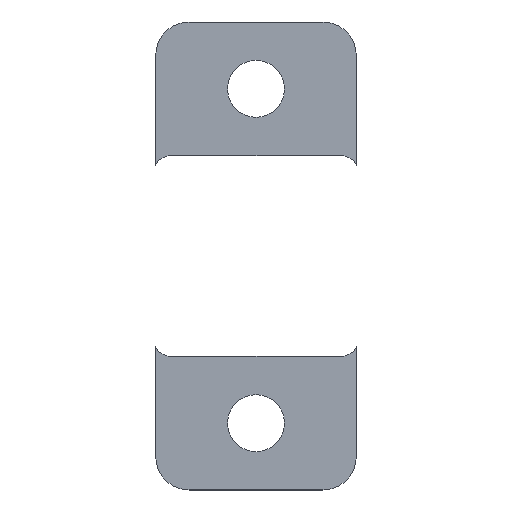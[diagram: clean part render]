
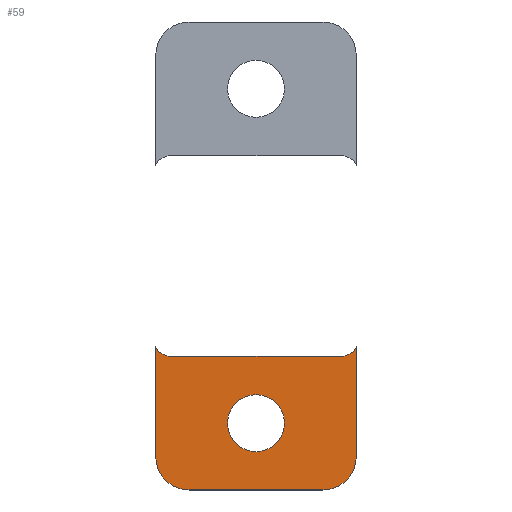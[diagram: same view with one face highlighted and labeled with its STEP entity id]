
A CAD part, top view. The second image highlights one B-rep face of the part: STEP entity #59.
In plain terms, the highlighted planar face has unit normal (0, 0, 1).
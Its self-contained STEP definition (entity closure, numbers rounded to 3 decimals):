
#21 = EDGE_CURVE('',#22,#24,#26,.T.);
#22 = VERTEX_POINT('',#23);
#23 = CARTESIAN_POINT('',(-18.,6.,0.4));
#24 = VERTEX_POINT('',#25);
#25 = CARTESIAN_POINT('',(-16.,4.,0.4));
#26 = CIRCLE('',#27,2.);
#27 = AXIS2_PLACEMENT_3D('',#28,#29,#30);
#28 = CARTESIAN_POINT('',(-16.,6.,0.4));
#29 = DIRECTION('',(0.,0.,1.));
#30 = DIRECTION('',(1.,0.,-0.));
#59 = ADVANCED_FACE('',(#60,#120),#131,.T.);
#60 = FACE_BOUND('',#61,.T.);
#61 = EDGE_LOOP('',(#62,#70,#71,#79,#88,#96,#105,#113));
#62 = ORIENTED_EDGE('',*,*,#63,.F.);
#63 = EDGE_CURVE('',#22,#64,#66,.T.);
#64 = VERTEX_POINT('',#65);
#65 = CARTESIAN_POINT('',(-18.,12.564,0.4));
#66 = LINE('',#67,#68);
#67 = CARTESIAN_POINT('',(-18.,6.,0.4));
#68 = VECTOR('',#69,1.);
#69 = DIRECTION('',(-0.,1.,0.));
#70 = ORIENTED_EDGE('',*,*,#21,.T.);
#71 = ORIENTED_EDGE('',*,*,#72,.T.);
#72 = EDGE_CURVE('',#24,#73,#75,.T.);
#73 = VERTEX_POINT('',#74);
#74 = CARTESIAN_POINT('',(-8.,4.,0.4));
#75 = LINE('',#76,#77);
#76 = CARTESIAN_POINT('',(-16.,4.,0.4));
#77 = VECTOR('',#78,1.);
#78 = DIRECTION('',(1.,0.,-0.));
#79 = ORIENTED_EDGE('',*,*,#80,.T.);
#80 = EDGE_CURVE('',#73,#81,#83,.T.);
#81 = VERTEX_POINT('',#82);
#82 = CARTESIAN_POINT('',(-6.,6.,0.4));
#83 = CIRCLE('',#84,2.);
#84 = AXIS2_PLACEMENT_3D('',#85,#86,#87);
#85 = CARTESIAN_POINT('',(-8.,6.,0.4));
#86 = DIRECTION('',(0.,0.,1.));
#87 = DIRECTION('',(1.,0.,-0.));
#88 = ORIENTED_EDGE('',*,*,#89,.T.);
#89 = EDGE_CURVE('',#81,#90,#92,.T.);
#90 = VERTEX_POINT('',#91);
#91 = CARTESIAN_POINT('',(-6.,12.564,0.4));
#92 = LINE('',#93,#94);
#93 = CARTESIAN_POINT('',(-6.,6.,0.4));
#94 = VECTOR('',#95,1.);
#95 = DIRECTION('',(-0.,1.,0.));
#96 = ORIENTED_EDGE('',*,*,#97,.F.);
#97 = EDGE_CURVE('',#98,#90,#100,.T.);
#98 = VERTEX_POINT('',#99);
#99 = CARTESIAN_POINT('',(-6.9,12.,0.4));
#100 = CIRCLE('',#101,1.);
#101 = AXIS2_PLACEMENT_3D('',#102,#103,#104);
#102 = CARTESIAN_POINT('',(-6.9,13.,0.4));
#103 = DIRECTION('',(0.,0.,1.));
#104 = DIRECTION('',(1.,0.,-0.));
#105 = ORIENTED_EDGE('',*,*,#106,.T.);
#106 = EDGE_CURVE('',#98,#107,#109,.T.);
#107 = VERTEX_POINT('',#108);
#108 = CARTESIAN_POINT('',(-17.1,12.,0.4));
#109 = LINE('',#110,#111);
#110 = CARTESIAN_POINT('',(-14.55,12.,0.4));
#111 = VECTOR('',#112,1.);
#112 = DIRECTION('',(-1.,-0.,0.));
#113 = ORIENTED_EDGE('',*,*,#114,.F.);
#114 = EDGE_CURVE('',#64,#107,#115,.T.);
#115 = CIRCLE('',#116,1.);
#116 = AXIS2_PLACEMENT_3D('',#117,#118,#119);
#117 = CARTESIAN_POINT('',(-17.1,13.,0.4));
#118 = DIRECTION('',(0.,0.,1.));
#119 = DIRECTION('',(1.,0.,-0.));
#120 = FACE_BOUND('',#121,.T.);
#121 = EDGE_LOOP('',(#122));
#122 = ORIENTED_EDGE('',*,*,#123,.F.);
#123 = EDGE_CURVE('',#124,#124,#126,.T.);
#124 = VERTEX_POINT('',#125);
#125 = CARTESIAN_POINT('',(-10.3,8.,0.4));
#126 = CIRCLE('',#127,1.7);
#127 = AXIS2_PLACEMENT_3D('',#128,#129,#130);
#128 = CARTESIAN_POINT('',(-12.,8.,0.4));
#129 = DIRECTION('',(0.,0.,1.));
#130 = DIRECTION('',(1.,0.,-0.));
#131 = PLANE('',#132);
#132 = AXIS2_PLACEMENT_3D('',#133,#134,#135);
#133 = CARTESIAN_POINT('',(-12.,18.,0.4));
#134 = DIRECTION('',(0.,0.,1.));
#135 = DIRECTION('',(1.,0.,-0.));
